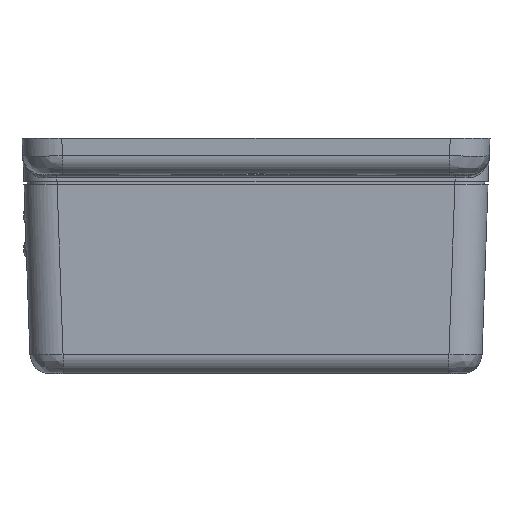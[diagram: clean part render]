
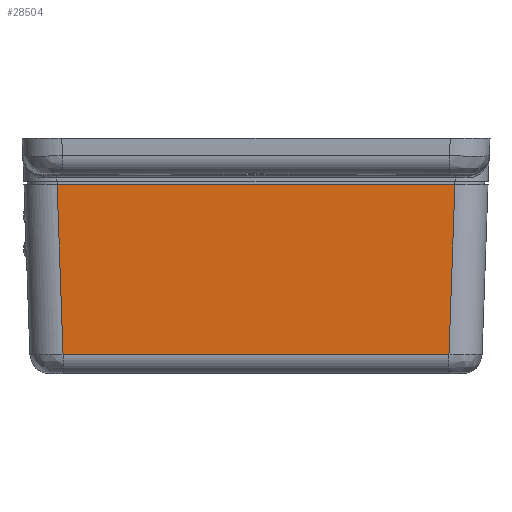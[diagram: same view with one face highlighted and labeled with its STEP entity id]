
A CAD part, front view. The second image highlights one B-rep face of the part: STEP entity #28504.
In plain terms, the highlighted planar face has unit normal (0, -0.999, -0.035) as drawn and (0, 0.999, 0.035) by its records, which use the part's own axes.
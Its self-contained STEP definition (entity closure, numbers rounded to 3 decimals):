
#25871=DIRECTION('',(-1.,0.,0.));
#25872=VECTOR('',#25871,58.218);
#25873=CARTESIAN_POINT('',(64.109,-0.894,
25.605));
#25874=LINE('',#25873,#25872);
#25949=DIRECTION('',(0.035,-0.035,0.999));
#25950=VECTOR('',#25949,25.636);
#25951=CARTESIAN_POINT('',(4.997,0.,0.));
#25952=LINE('',#25951,#25950);
#25953=DIRECTION('',(-1.,0.,0.));
#25954=VECTOR('',#25953,60.006);
#25955=CARTESIAN_POINT('',(65.003,0.,0.));
#25956=LINE('',#25955,#25954);
#25957=DIRECTION('',(0.035,0.035,-0.999));
#25958=VECTOR('',#25957,25.636);
#25959=CARTESIAN_POINT('',(64.109,-0.894,
25.605));
#25960=LINE('',#25959,#25958);
#27729=CARTESIAN_POINT('',(5.891,-0.894,
25.605));
#27730=VERTEX_POINT('',#27729);
#27735=CARTESIAN_POINT('',(64.109,-0.894,
25.605));
#27736=VERTEX_POINT('',#27735);
#27929=CARTESIAN_POINT('',(4.997,0.,0.));
#27930=VERTEX_POINT('',#27929);
#27931=CARTESIAN_POINT('',(65.003,0.,0.));
#27932=VERTEX_POINT('',#27931);
#28491=CARTESIAN_POINT('',(0.,0.,0.));
#28492=DIRECTION('',(0.,0.999,0.035));
#28493=DIRECTION('',(-1.,0.,0.));
#28494=AXIS2_PLACEMENT_3D('',#28491,#28492,#28493);
#28495=PLANE('',#28494);
#28496=ORIENTED_EDGE('',*,*,#28340,.T.);
#28498=ORIENTED_EDGE('',*,*,#28497,.F.);
#28500=ORIENTED_EDGE('',*,*,#28499,.F.);
#28501=ORIENTED_EDGE('',*,*,#28483,.F.);
#28502=EDGE_LOOP('',(#28496,#28498,#28500,#28501));
#28503=FACE_OUTER_BOUND('',#28502,.F.);
#28504=ADVANCED_FACE('',(#28503),#28495,.T.);
#28340=EDGE_CURVE('',#27736,#27730,#25874,.T.);
#28483=EDGE_CURVE('',#27736,#27932,#25960,.T.);
#28497=EDGE_CURVE('',#27930,#27730,#25952,.T.);
#28499=EDGE_CURVE('',#27932,#27930,#25956,.T.);
